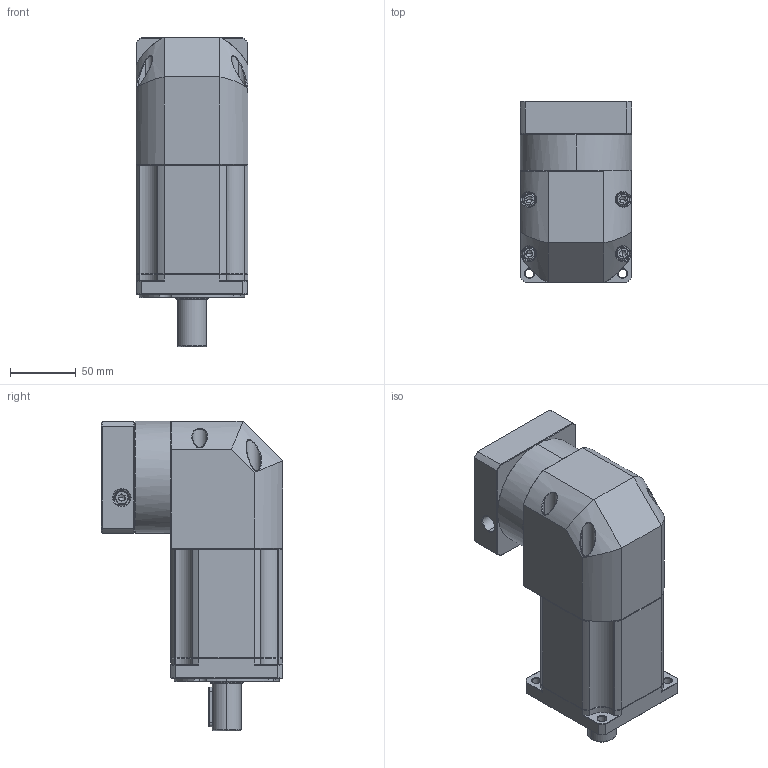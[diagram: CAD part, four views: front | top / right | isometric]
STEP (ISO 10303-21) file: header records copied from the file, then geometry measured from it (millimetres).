
FILE_DESCRIPTION (( 'STEP AP214' ), '1' );
FILE_NAME ('ZBR090-D22-L3-P2-16-80-100-M6.step', '2023-08-19T02:07:55', ( '' ), ( '' ), 'SwSTEP 2.0', 'SolidWorks 2016', '' );
FILE_SCHEMA (( 'AUTOMOTIVE_DESIGN' ));
Length unit declared in the file: millimetre
Products named in the file (1): ZBR090-D22-L3-P2-16-80-100-M6
Bounding box: 85 x 137.6 x 235 mm (x, y, z)
Volume: 1492141.8 mm3; surface area: 144976.8 mm2
Topology: 5 solids, 5 shells, 2406 faces, 6280 edges, 3968 vertices
Faces by surface type: plane 1155, cylinder 449, bspline 421, cone 355, torus 26
Entity records: 129536 total; most frequent: CARTESIAN_POINT 47649, ORIENTED_EDGE 12484, DIRECTION 9937, EDGE_CURVE 6242, VERTEX_POINT 3968, LINE 3959, VECTOR 3959, AXIS2_PLACEMENT_3D 2989
